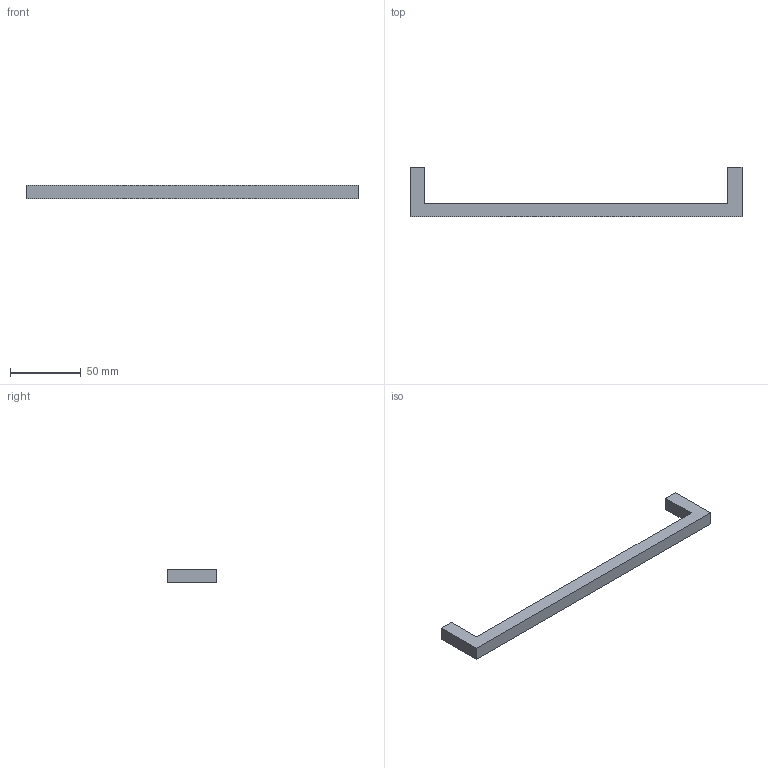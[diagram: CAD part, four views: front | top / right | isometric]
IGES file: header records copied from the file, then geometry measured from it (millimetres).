
Start section: Data from Parasolid IGES Translator 15.0.47, Copyright(c) 2006 Siemens P LM Software. All Rights Reserved.
Global section: file name: 9996673.igs; native system:  By UGS Corp.; preprocessor: XPlus GENERIC/IGES 3.0; author: Noname; organization: Noname; date: 20140123.102657; units: millimetre
Bounding box: 234 x 35 x 9.6 mm (x, y, z)
Surface area: 11579.2 mm2 (no closed solid volume)
Topology: 0 solids, 0 shells, 14 faces, 60 edges, 58 vertices
Faces by surface type: extrusion 12, revolution 2
